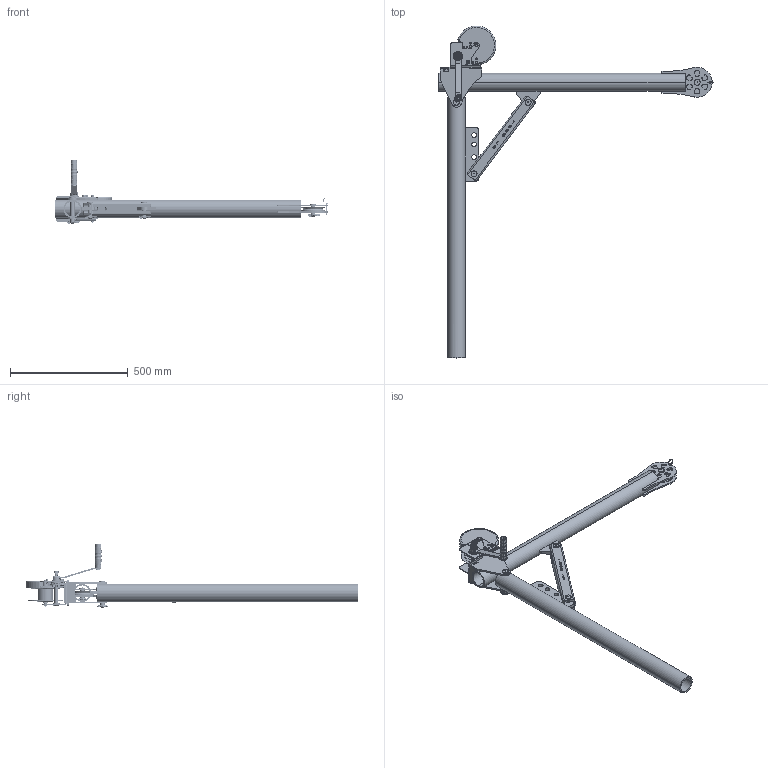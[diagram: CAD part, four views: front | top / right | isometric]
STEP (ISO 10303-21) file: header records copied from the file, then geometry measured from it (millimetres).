
FILE_DESCRIPTION (( 'STEP AP203' ), '1' );
FILE_NAME ('OZ1000DAV.STEP', '2022-03-02T20:39:11', ( '' ), ( '' ), 'SwSTEP 2.0', 'SolidWorks 2021', '' );
FILE_SCHEMA (( 'CONFIG_CONTROL_DESIGN' ));
Length unit declared in the file: inch
Products named in the file (26): SD7007; HANG-2; .375 LOCK WASHER ZINC YELLOW_91104A031; .375-16 Steel Hex Weld Nut_93560A160; SD7008; DRI-14; SD7013; SD7010; .375 FLAT WASHER ZINC YELLOW_98026A031; DLB1200A; OZ1000DAV; SD7017; SD7012; SD7011; SD7009; SD7004; SD7015; .375 X 1 HEX BOLT ZINC YELLOW-GRD 8_92620A624; SD7001; SD7003; SD7016; .50-13 Steel Hex Weld Nut_93560A180; SD7014; SD7006; SD7005; SD7002
Assembly tree (43 placements, depth 4):
  OZ1000DAV
    SD7016
      SD7010
      SD7001
    SD7015
      SD7006
      SD7003  x2
      SD7011
      SD7017
        SD7007
        SD7008  x2
        SD7009  x2
        .375-16 Steel Hex Weld Nut_93560A160  x4
        .50-13 Steel Hex Weld Nut_93560A180  x3
    SD7002
    SD7012
    SD7013  x2
    SD7014
    DLB1200A
    SD7004
    SD7005
    DRI-14
    HANG-2  x4
    .375 X 1 HEX BOLT ZINC YELLOW-GRD 8_92620A624  x3
    .375 LOCK WASHER ZINC YELLOW_91104A031  x3
    .375 FLAT WASHER ZINC YELLOW_98026A031  x3
Bounding box: 1168.37 x 1410.73 x 271.39 mm (x, y, z)
Volume: 4377554 mm3; surface area: 1776592 mm2
Topology: 39 solids, 78 shells, 4414 faces, 12345 edges, 8118 vertices
Faces by surface type: cylinder 2831, plane 1014, bspline 277, cone 276, torus 16
Entity records: 186289 total; most frequent: CARTESIAN_POINT 84738, DIRECTION 21393, ORIENTED_EDGE 20907, EDGE_CURVE 10485, AXIS2_PLACEMENT_3D 8560, VERTEX_POINT 6920, CIRCLE 5023, VECTOR 4273
